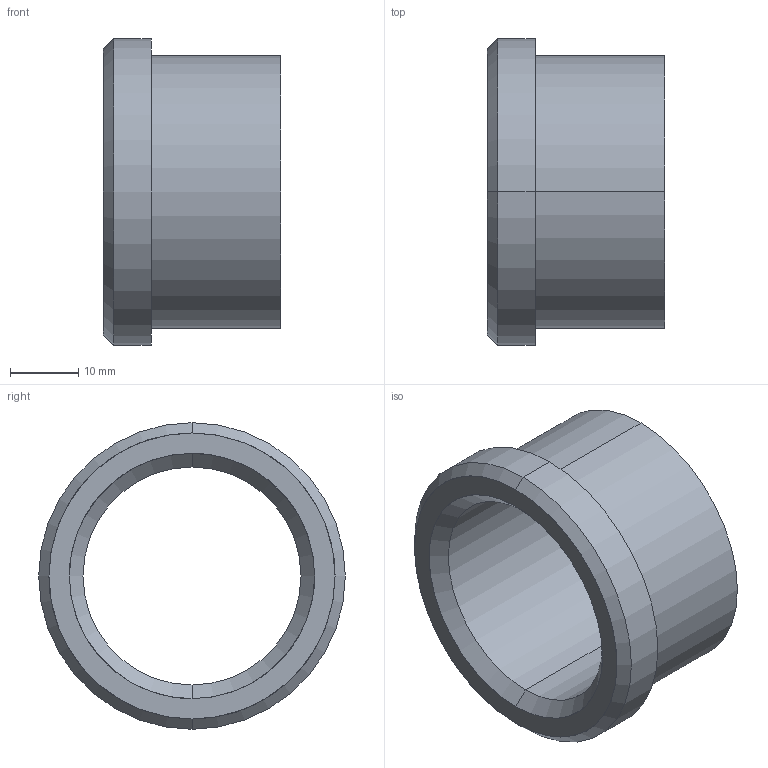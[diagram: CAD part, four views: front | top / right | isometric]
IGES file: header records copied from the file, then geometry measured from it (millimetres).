
Start section: START RECORD GO HERE.
Global section: file name: 353-32X26.igs; native system: DASSAULT SYSTEMES CATIA V5 R20 - www.3ds.com; preprocessor: CATIA Version 5 Release 20 ; author: Utente; organization: NB04-ASUS; date: 20210512.205851; units: millimetre
Bounding box: 26 x 45 x 45 mm (x, y, z)
Surface area: 7239.1 mm2 (no closed solid volume)
Topology: 0 solids, 0 shells, 15 faces, 96 edges, 96 vertices
Faces by surface type: revolution 12, plane 3
